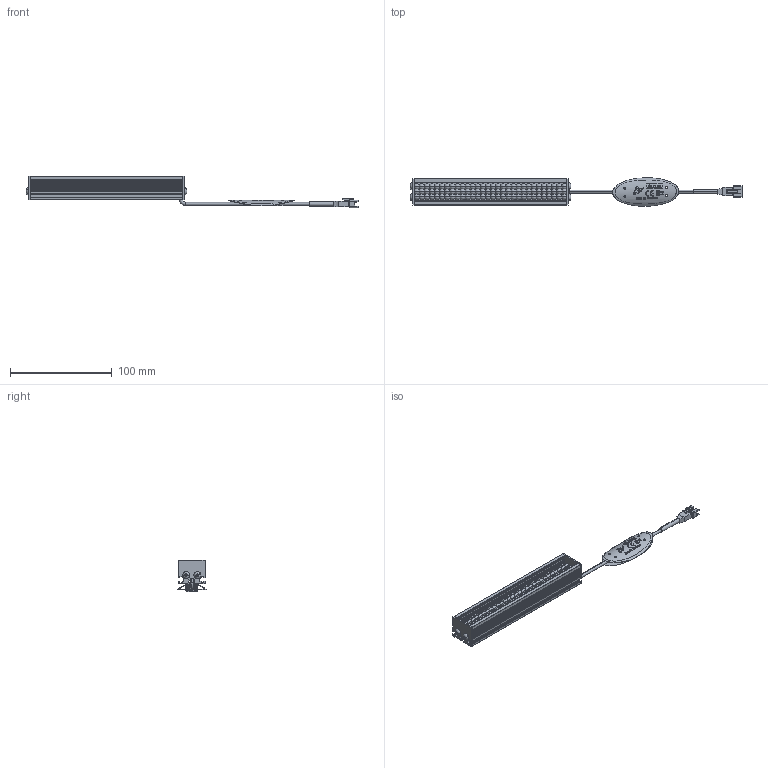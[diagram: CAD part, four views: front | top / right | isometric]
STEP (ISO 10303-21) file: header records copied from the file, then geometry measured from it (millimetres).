
FILE_DESCRIPTION(('STEP AP214'),'1');
FILE_NAME('VBA-15015_DRAWING_3D.step','2023-09-14T00:55:42',(' '),(' '),'Spatial InterOp 3D',' ',' ');
FILE_SCHEMA(('AUTOMOTIVE_DESIGN { 1 0 10303 214 1 1 1 1 }'));
Length unit declared in the file: millimetre
Products named in the file (7): BASE; SIDE PLATE; MXB8146; 3P; CABEL TAG (VS).stp; LED LENS
Assembly tree (12 placements, depth 2):
  (unnamed)
    BASE
    SIDE PLATE  x2
    MXB8146  x4
    3P
    CABEL TAG (VS).stp
    LED LENS  x3
Bounding box: 326 x 28 x 30.5 mm (x, y, z)
Volume: 48108 mm3; surface area: 54453.4 mm2
Topology: 13 solids, 13 shells, 1166 faces, 3614 edges, 2530 vertices
Faces by surface type: plane 574, cylinder 392, sphere 180, torus 14, bspline 6
Entity records: 37374 total; most frequent: CARTESIAN_POINT 8808, ORIENTED_EDGE 4924, DIRECTION 4438, EDGE_CURVE 2462, VERTEX_POINT 1760, AXIS2_PLACEMENT_3D 1556, LINE 1326, VECTOR 1326
